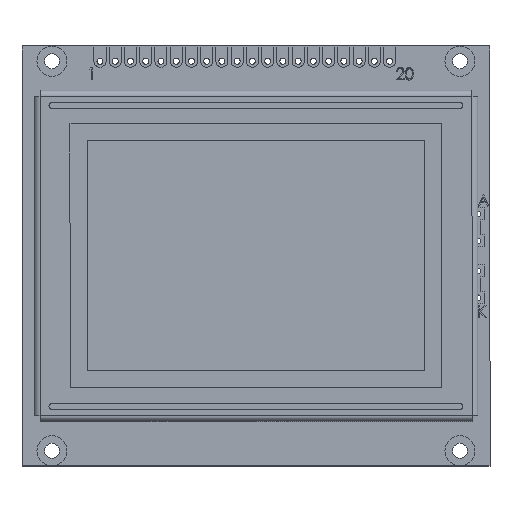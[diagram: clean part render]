
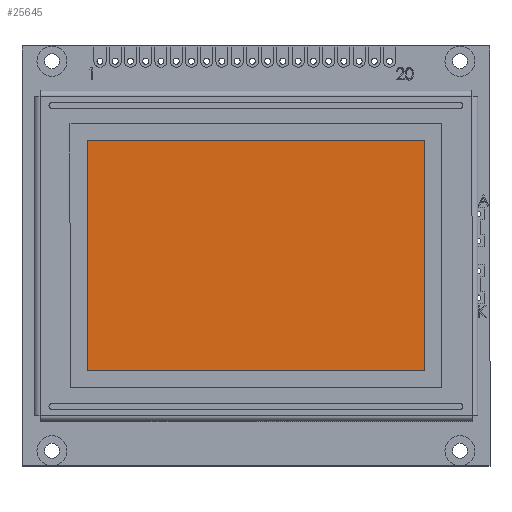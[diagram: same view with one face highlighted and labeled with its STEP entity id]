
A CAD part, top view. The second image highlights one B-rep face of the part: STEP entity #25645.
In plain terms, the highlighted planar face has unit normal (0, 0, 1).
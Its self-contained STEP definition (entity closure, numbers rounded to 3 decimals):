
#1154 = LINE ( 'NONE', #44875, #7095 ) ;
#1278 = CARTESIAN_POINT ( 'NONE',  ( 0., 0., 10.3 ) ) ;
#1361 = LINE ( 'NONE', #44568, #32168 ) ;
#4593 = VERTEX_POINT ( 'NONE', #8942 ) ;
#6755 = CARTESIAN_POINT ( 'NONE',  ( 0., -15.82, 10.3 ) ) ;
#7008 = DIRECTION ( 'NONE',  ( 1., 0., 0. ) ) ;
#7095 = VECTOR ( 'NONE', #13189, 1000. ) ;
#8942 = CARTESIAN_POINT ( 'NONE',  ( 67.14, -15.82, 10.3 ) ) ;
#11070 = LINE ( 'NONE', #26967, #50019 ) ;
#11553 = EDGE_CURVE ( 'NONE', #4593, #14799, #1154, .T. ) ;
#12145 = ORIENTED_EDGE ( 'NONE', *, *, #12999, .F. ) ;
#12999 = EDGE_CURVE ( 'NONE', #49609, #4593, #18737, .T. ) ;
#13189 = DIRECTION ( 'NONE',  ( 0., -1., 0. ) ) ;
#13322 = EDGE_CURVE ( 'NONE', #14799, #33794, #1361, .T. ) ;
#14799 = VERTEX_POINT ( 'NONE', #42960 ) ;
#14909 = EDGE_CURVE ( 'NONE', #33794, #49609, #11070, .T. ) ;
#17192 = DIRECTION ( 'NONE',  ( 0., 0., 1. ) ) ;
#18737 = LINE ( 'NONE', #6755, #20572 ) ;
#20572 = VECTOR ( 'NONE', #7008, 1000. ) ;
#25645 = ADVANCED_FACE ( 'NONE', ( #49405 ), #44987, .T. ) ;
#26967 = CARTESIAN_POINT ( 'NONE',  ( 10.86, 0., 10.3 ) ) ;
#29124 = EDGE_LOOP ( 'NONE', ( #36350, #36279, #37368, #12145 ) ) ;
#30689 = CARTESIAN_POINT ( 'NONE',  ( 10.86, -54.18, 10.3 ) ) ;
#32168 = VECTOR ( 'NONE', #33487, 1000. ) ;
#33155 = DIRECTION ( 'NONE',  ( 1., 0., 0. ) ) ;
#33487 = DIRECTION ( 'NONE',  ( -1., 0., 0. ) ) ;
#33794 = VERTEX_POINT ( 'NONE', #30689 ) ;
#36279 = ORIENTED_EDGE ( 'NONE', *, *, #13322, .F. ) ;
#36350 = ORIENTED_EDGE ( 'NONE', *, *, #14909, .F. ) ;
#37368 = ORIENTED_EDGE ( 'NONE', *, *, #11553, .F. ) ;
#39027 = DIRECTION ( 'NONE',  ( 0., 1., 0. ) ) ;
#41316 = AXIS2_PLACEMENT_3D ( 'NONE', #1278, #17192, #33155 ) ;
#42960 = CARTESIAN_POINT ( 'NONE',  ( 67.14, -54.18, 10.3 ) ) ;
#44263 = CARTESIAN_POINT ( 'NONE',  ( 10.86, -15.82, 10.3 ) ) ;
#44568 = CARTESIAN_POINT ( 'NONE',  ( 0., -54.18, 10.3 ) ) ;
#44875 = CARTESIAN_POINT ( 'NONE',  ( 67.14, 0., 10.3 ) ) ;
#44987 = PLANE ( 'NONE',  #41316 ) ;
#49405 = FACE_OUTER_BOUND ( 'NONE', #29124, .T. ) ;
#49609 = VERTEX_POINT ( 'NONE', #44263 ) ;
#50019 = VECTOR ( 'NONE', #39027, 1000. ) ;
